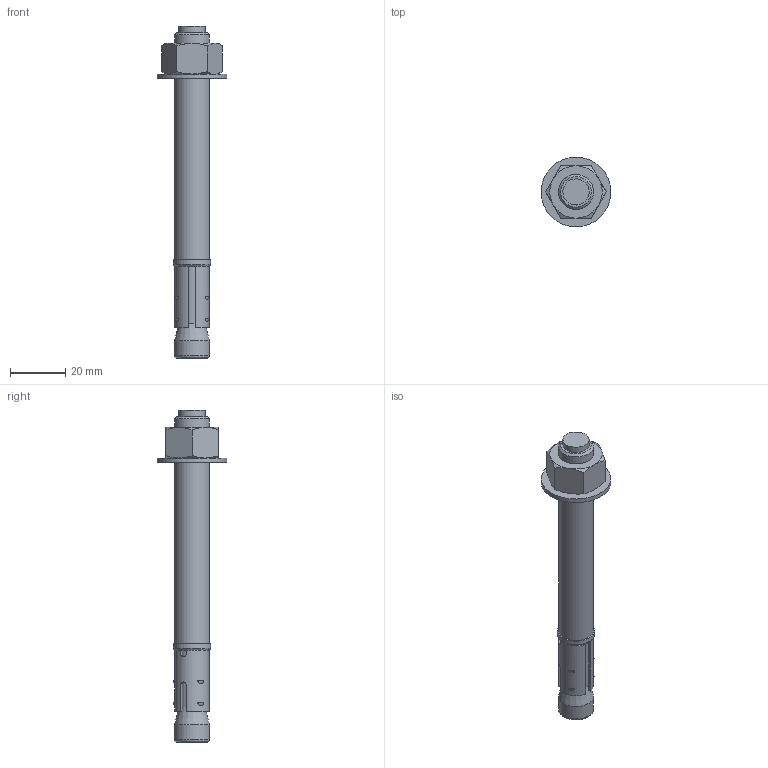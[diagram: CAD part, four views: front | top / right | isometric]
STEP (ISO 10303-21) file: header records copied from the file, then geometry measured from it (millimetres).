
FILE_DESCRIPTION(/* description */ (''),/* implementation_level */ '2;1');
FILE_NAME(/* name */ 'C:\001_Work\Designs\SAS\SAS-0.500 x 4.750 ANCHOR.stp',/* time_stamp */ '2015-10-10T16:33:12-04:00',/* author */ ('rramoutar'),/* organization */ ('Mason Industries Inc.'),/* preprocessor_version */ 'ST-DEVELOPER v15.6',/* originating_system */ 'Autodesk Inventor 2015',/* authorisation */ '');
FILE_SCHEMA (('AUTOMOTIVE_DESIGN { 1 0 10303 214 3 1 1 }'));
Length unit declared in the file: inch
Products named in the file (1): SAS-0.500 x 4.750 ANCHOR
Bounding box: 25.31 x 25.31 x 120.65 mm (x, y, z)
Volume: 17026.6 mm3; surface area: 7690.7 mm2
Topology: 1 solids, 1 shells, 77 faces, 175 edges, 109 vertices
Faces by surface type: plane 37, cone 18, cylinder 14, sphere 6, torus 2
Full cylindrical faces by diameter (mm): 9.525 x2, 12.7 x3, 13.487 x1, 13.494 x1, 25.4 x1
Entity records: 2338 total; most frequent: CARTESIAN_POINT 624, DIRECTION 338, ORIENTED_EDGE 310, EDGE_CURVE 155, AXIS2_PLACEMENT_3D 143, EDGE_LOOP 106, VERTEX_POINT 105, STYLED_ITEM 78
